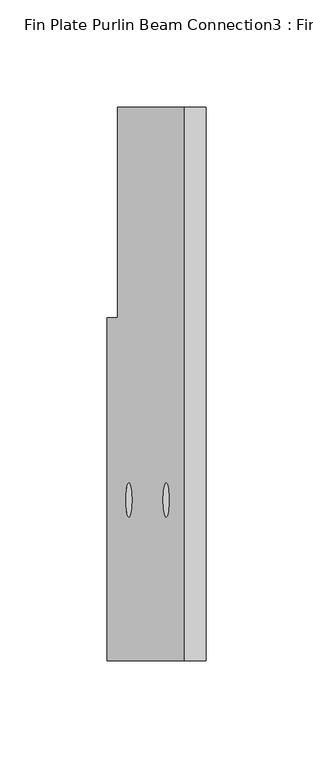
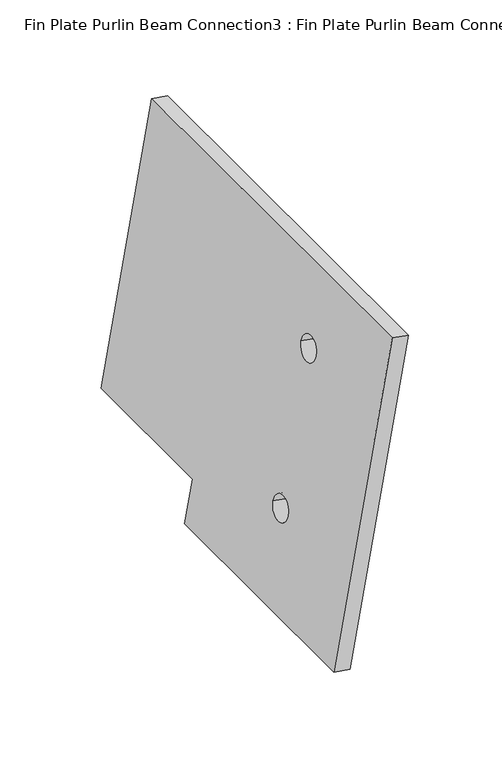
"""IFC4 building model written with IfcOpenShell, lengths in millimetres: proxy geometry, Fin Plate Purlin Beam Connection3 : Fin Plate Purlin Beam Connection."""

from ifc_helpers import new_model, si_unit, point, frame, frame_2d, origin, place, context, project, spatial, polyline, circle_curve, trimmed, segment, composite_curve, outline, extrude, source, transform, mapped, element, save


def fin_plate_purlin_beam_connection3_fin_plate_purlin_beam_2e45daf0(model_context):
    return source(origin(), model_context, "Body", "SweptSolid", [
        extrude(outline(polyline([(0.0, 0.0), (0.0, -181.2383862), (-258.2, -181.2383862), (-258.2, 27.7176621), (-98.2, 27.7176621), (-98.2, 0.0), (0.0, 0.0)]), holes=[composite_curve([segment(trimmed(circle_curve(frame_2d((-183.2, -131.2383863)), 8.0), [point((-175.2, -131.2383863))], [point((-191.2, -131.2383863))], True, "CARTESIAN"), True, "CONTINUOUS"), segment(trimmed(circle_curve(frame_2d((-183.2, -131.2383863)), 8.0), [point((-191.2, -131.2383863))], [point((-175.2, -131.2383863))], True, "CARTESIAN"), True, "CONTINUOUS")], self_intersect=False), composite_curve([segment(trimmed(circle_curve(frame_2d((-183.2, -31.2383863)), 8.0), [point((-175.2, -31.2383863))], [point((-191.2, -31.2383863))], True, "CARTESIAN"), True, "CONTINUOUS"), segment(trimmed(circle_curve(frame_2d((-183.2, -31.2383863)), 8.0), [point((-191.2, -31.2383863))], [point((-175.2, -31.2383863))], True, "CARTESIAN"), True, "CONTINUOUS")], self_intersect=False)]), frame((-31942.3985234, 11048.2549517, 3276.0111627), z_axis=(-0.9848077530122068, 0.0, 0.17364817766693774), x_axis=(0.0, 1.0, 0.0)), (0.0, 0.0, 1.0), 10.0),
    ])


if __name__ == "__main__":
    model = new_model("IFC4")
    model_context = context("Model", 3, world=origin())
    ifc_project = project(units=[si_unit("LENGTHUNIT", "METRE", prefix="MILLI")], contexts=[model_context])
    site = spatial("IfcSite", under=ifc_project)
    building = spatial("IfcBuilding", under=site)
    placement = place(None, origin())
    fin_plate_purlin_beam_connection3_fin_plate_purlin_beam_shape = fin_plate_purlin_beam_connection3_fin_plate_purlin_beam_2e45daf0(model_context)
    element("IfcBuildingElementProxy", 1, Name="Fin Plate Purlin Beam Connection3 : Fin Plate Purlin Beam Connection", ObjectType="Fin Plate Purlin Beam Connection3 : Fin Plate Purlin Beam Connection", at=placement, inside=building, context=model_context, shape_type="MappedRepresentation", body=[
        mapped(fin_plate_purlin_beam_connection3_fin_plate_purlin_beam_shape, transform((0.0, 0.0, 0.0), x_axis=(1.0, 0.0, 0.0), y_axis=(0.0, 1.0, 0.0), z_axis=(0.0, 0.0, 1.0))),
    ])
    save(model, "model.ifc")
